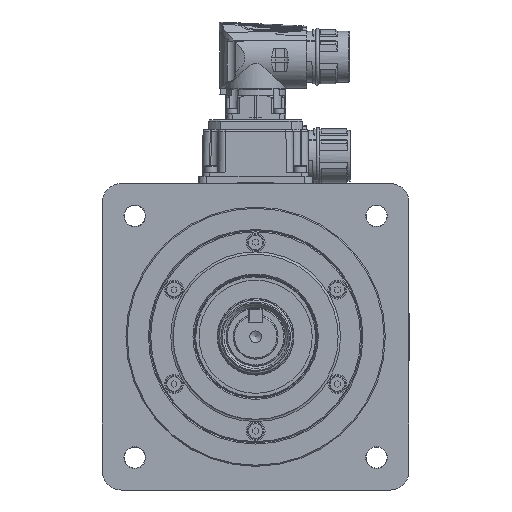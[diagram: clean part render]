
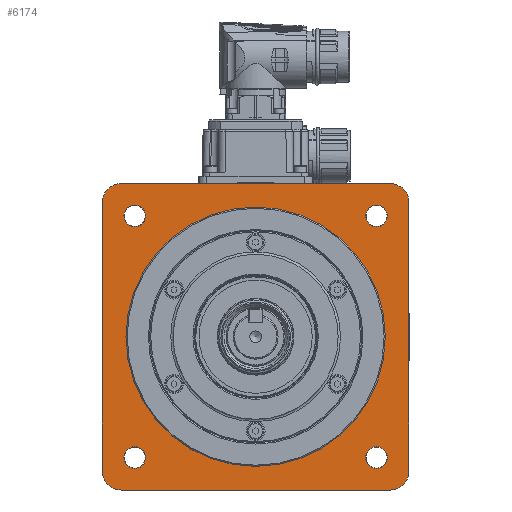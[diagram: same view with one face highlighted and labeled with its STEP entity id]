
A CAD part, front view. The second image highlights one B-rep face of the part: STEP entity #6174.
In plain terms, the highlighted planar face has unit normal (0, -1, 0).
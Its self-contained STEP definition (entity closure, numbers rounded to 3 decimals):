
#6174 = ADVANCED_FACE( '', ( #13667, #13668, #13669, #13670, #13671, #13672 ), #13673, .F. );
#13667 = FACE_BOUND( '', #31389, .T. );
#13668 = FACE_OUTER_BOUND( '', #31390, .T. );
#13669 = FACE_BOUND( '', #31391, .T. );
#13670 = FACE_BOUND( '', #31392, .T. );
#13671 = FACE_BOUND( '', #31393, .T. );
#13672 = FACE_BOUND( '', #31394, .T. );
#13673 = PLANE( '', #31395 );
#31389 = EDGE_LOOP( '', ( #52420 ) );
#31390 = EDGE_LOOP( '', ( #52421, #52422, #52423, #52424, #52425, #52426, #52427, #52428 ) );
#31391 = EDGE_LOOP( '', ( #52429 ) );
#31392 = EDGE_LOOP( '', ( #52430 ) );
#31393 = EDGE_LOOP( '', ( #52431 ) );
#31394 = EDGE_LOOP( '', ( #52432 ) );
#31395 = AXIS2_PLACEMENT_3D( '', #52433, #52434, #52435 );
#52420 = ORIENTED_EDGE( '', *, *, #65525, .F. );
#52421 = ORIENTED_EDGE( '', *, *, #60502, .F. );
#52422 = ORIENTED_EDGE( '', *, *, #66783, .T. );
#52423 = ORIENTED_EDGE( '', *, *, #62568, .F. );
#52424 = ORIENTED_EDGE( '', *, *, #66784, .T. );
#52425 = ORIENTED_EDGE( '', *, *, #61734, .F. );
#52426 = ORIENTED_EDGE( '', *, *, #63927, .T. );
#52427 = ORIENTED_EDGE( '', *, *, #66785, .F. );
#52428 = ORIENTED_EDGE( '', *, *, #66786, .T. );
#52429 = ORIENTED_EDGE( '', *, *, #66787, .F. );
#52430 = ORIENTED_EDGE( '', *, *, #66788, .F. );
#52431 = ORIENTED_EDGE( '', *, *, #66789, .F. );
#52432 = ORIENTED_EDGE( '', *, *, #63581, .F. );
#52433 = CARTESIAN_POINT( '', ( 0., -32.91, 55. ) );
#52434 = DIRECTION( '', ( 0., 1., 0. ) );
#52435 = DIRECTION( '', ( 0., 0., 1. ) );
#60502 = EDGE_CURVE( '', #70469, #70472, #70473, .F. );
#61734 = EDGE_CURVE( '', #72583, #72586, #72587, .F. );
#62568 = EDGE_CURVE( '', #73909, #73912, #73913, .F. );
#63581 = EDGE_CURVE( '', #75486, #75486, #75487, .F. );
#63927 = EDGE_CURVE( '', #72583, #76011, #76013, .T. );
#65525 = EDGE_CURVE( '', #78308, #78308, #78309, .T. );
#66783 = EDGE_CURVE( '', #70469, #73912, #79905, .T. );
#66784 = EDGE_CURVE( '', #73909, #72586, #79906, .T. );
#66785 = EDGE_CURVE( '', #79907, #76011, #79908, .F. );
#66786 = EDGE_CURVE( '', #79907, #70472, #79909, .T. );
#66787 = EDGE_CURVE( '', #79910, #79910, #79911, .F. );
#66788 = EDGE_CURVE( '', #79912, #79912, #79913, .F. );
#66789 = EDGE_CURVE( '', #79914, #79914, #79915, .F. );
#70469 = VERTEX_POINT( '', #86851 );
#70472 = VERTEX_POINT( '', #86855 );
#70473 = CIRCLE( '', #86856, 8. );
#72583 = VERTEX_POINT( '', #91494 );
#72586 = VERTEX_POINT( '', #91498 );
#72587 = CIRCLE( '', #91499, 8. );
#73909 = VERTEX_POINT( '', #94652 );
#73912 = VERTEX_POINT( '', #94656 );
#73913 = CIRCLE( '', #94657, 8. );
#75486 = VERTEX_POINT( '', #98159 );
#75487 = CIRCLE( '', #98160, 4.6 );
#76011 = VERTEX_POINT( '', #99186 );
#76013 = LINE( '', #99189, #99190 );
#78308 = VERTEX_POINT( '', #104272 );
#78309 = CIRCLE( '', #104273, 55. );
#79905 = LINE( '', #107961, #107962 );
#79906 = LINE( '', #107963, #107964 );
#79907 = VERTEX_POINT( '', #107965 );
#79908 = CIRCLE( '', #107966, 8. );
#79909 = LINE( '', #107967, #107968 );
#79910 = VERTEX_POINT( '', #107969 );
#79911 = CIRCLE( '', #107970, 4.6 );
#79912 = VERTEX_POINT( '', #107971 );
#79913 = CIRCLE( '', #107972, 4.6 );
#79914 = VERTEX_POINT( '', #107973 );
#79915 = CIRCLE( '', #107974, 4.6 );
#86851 = CARTESIAN_POINT( '', ( -65., -32.91, 57. ) );
#86855 = CARTESIAN_POINT( '', ( -57., -32.91, 65. ) );
#86856 = AXIS2_PLACEMENT_3D( '', #113106, #113107, #113108 );
#91494 = CARTESIAN_POINT( '', ( 65., -32.91, -57. ) );
#91498 = CARTESIAN_POINT( '', ( 57., -32.91, -65. ) );
#91499 = AXIS2_PLACEMENT_3D( '', #114751, #114752, #114753 );
#94652 = CARTESIAN_POINT( '', ( -57., -32.91, -65. ) );
#94656 = CARTESIAN_POINT( '', ( -65., -32.91, -57. ) );
#94657 = AXIS2_PLACEMENT_3D( '', #115696, #115697, #115698 );
#98159 = CARTESIAN_POINT( '', ( 51.265, -32.91, 55.866 ) );
#98160 = AXIS2_PLACEMENT_3D( '', #116884, #116885, #116886 );
#99186 = CARTESIAN_POINT( '', ( 65., -32.91, 57. ) );
#99189 = CARTESIAN_POINT( '', ( 65., -32.91, -65. ) );
#99190 = VECTOR( '', #117309, 1000. );
#104272 = CARTESIAN_POINT( '', ( 0., -32.91, -55. ) );
#104273 = AXIS2_PLACEMENT_3D( '', #119024, #119025, #119026 );
#107961 = CARTESIAN_POINT( '', ( -65., -32.91, 65. ) );
#107962 = VECTOR( '', #120255, 1000. );
#107963 = CARTESIAN_POINT( '', ( -65., -32.91, -65. ) );
#107964 = VECTOR( '', #120256, 1000. );
#107965 = CARTESIAN_POINT( '', ( 57., -32.91, 65. ) );
#107966 = AXIS2_PLACEMENT_3D( '', #120257, #120258, #120259 );
#107967 = CARTESIAN_POINT( '', ( 65., -32.91, 65. ) );
#107968 = VECTOR( '', #120260, 1000. );
#107969 = CARTESIAN_POINT( '', ( -51.265, -32.91, 55.866 ) );
#107970 = AXIS2_PLACEMENT_3D( '', #120261, #120262, #120263 );
#107971 = CARTESIAN_POINT( '', ( -51.265, -32.91, -46.665 ) );
#107972 = AXIS2_PLACEMENT_3D( '', #120264, #120265, #120266 );
#107973 = CARTESIAN_POINT( '', ( 51.265, -32.91, -46.665 ) );
#107974 = AXIS2_PLACEMENT_3D( '', #120267, #120268, #120269 );
#113106 = CARTESIAN_POINT( '', ( -57., -32.91, 57. ) );
#113107 = DIRECTION( '', ( 0., -1., 0. ) );
#113108 = DIRECTION( '', ( 0., 0., -1. ) );
#114751 = CARTESIAN_POINT( '', ( 57., -32.91, -57. ) );
#114752 = DIRECTION( '', ( 0., -1., 0. ) );
#114753 = DIRECTION( '', ( 0., 0., -1. ) );
#115696 = CARTESIAN_POINT( '', ( -57., -32.91, -57. ) );
#115697 = DIRECTION( '', ( 0., -1., 0. ) );
#115698 = DIRECTION( '', ( 0., 0., -1. ) );
#116884 = CARTESIAN_POINT( '', ( 51.265, -32.91, 51.265 ) );
#116885 = DIRECTION( '', ( 0., 1., 0. ) );
#116886 = DIRECTION( '', ( 0., 0., 1. ) );
#117309 = DIRECTION( '', ( 0., 0., 1. ) );
#119024 = CARTESIAN_POINT( '', ( 0., -32.91, 0. ) );
#119025 = DIRECTION( '', ( 0., -1., 0. ) );
#119026 = DIRECTION( '', ( 0., 0., -1. ) );
#120255 = DIRECTION( '', ( 0., 0., -1. ) );
#120256 = DIRECTION( '', ( 1., 0., 0. ) );
#120257 = CARTESIAN_POINT( '', ( 57., -32.91, 57. ) );
#120258 = DIRECTION( '', ( 0., -1., 0. ) );
#120259 = DIRECTION( '', ( 0., 0., -1. ) );
#120260 = DIRECTION( '', ( -1., 0., 0. ) );
#120261 = CARTESIAN_POINT( '', ( -51.265, -32.91, 51.265 ) );
#120262 = DIRECTION( '', ( 0., 1., 0. ) );
#120263 = DIRECTION( '', ( 0., 0., 1. ) );
#120264 = CARTESIAN_POINT( '', ( -51.265, -32.91, -51.265 ) );
#120265 = DIRECTION( '', ( 0., 1., 0. ) );
#120266 = DIRECTION( '', ( 0., 0., 1. ) );
#120267 = CARTESIAN_POINT( '', ( 51.265, -32.91, -51.265 ) );
#120268 = DIRECTION( '', ( 0., 1., 0. ) );
#120269 = DIRECTION( '', ( 0., 0., 1. ) );
